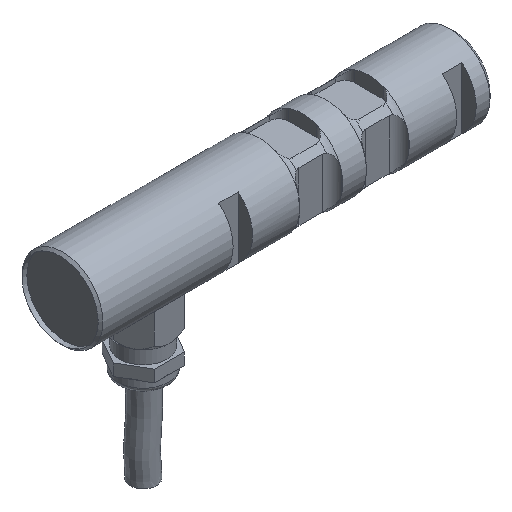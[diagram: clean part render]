
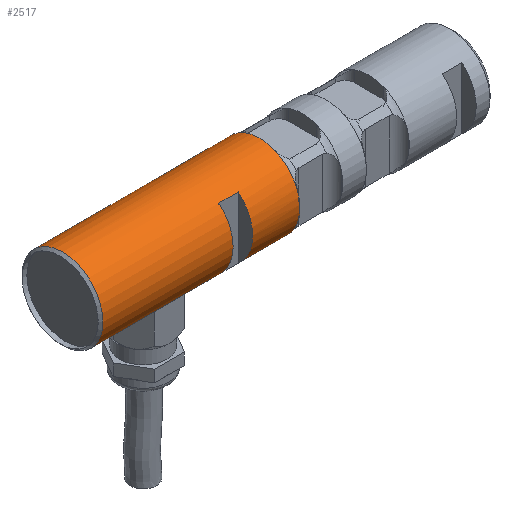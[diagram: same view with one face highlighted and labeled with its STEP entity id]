
A CAD part, isometric view. The second image highlights one B-rep face of the part: STEP entity #2517.
In plain terms, the highlighted cylindrical face has radius 8.525 mm (diameter 17.05 mm), a full revolution.
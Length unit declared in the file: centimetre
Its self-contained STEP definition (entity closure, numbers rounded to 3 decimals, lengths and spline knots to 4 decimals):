
#712=CYLINDRICAL_SURFACE('',#2659,0.8525);
#752=VECTOR('',#2832,1.);
#754=VECTOR('',#2834,1.);
#761=VECTOR('',#2874,1.);
#762=VECTOR('',#2877,1.);
#763=VECTOR('',#2880,1.);
#764=VECTOR('',#2883,1.);
#882=LINE('',#3252,#752);
#884=LINE('',#3256,#754);
#891=LINE('',#3310,#761);
#892=LINE('',#3315,#762);
#893=LINE('',#3318,#763);
#894=LINE('',#3323,#764);
#1011=VERTEX_POINT('',#3248);
#1012=VERTEX_POINT('',#3249);
#1013=VERTEX_POINT('',#3253);
#1014=VERTEX_POINT('',#3255);
#1033=VERTEX_POINT('',#3298);
#1035=VERTEX_POINT('',#3302);
#1036=VERTEX_POINT('',#3303);
#1037=VERTEX_POINT('',#3304);
#1038=VERTEX_POINT('',#3305);
#1039=VERTEX_POINT('',#3306);
#1040=VERTEX_POINT('',#3307);
#1041=VERTEX_POINT('',#3308);
#1042=VERTEX_POINT('',#3309);
#1043=VERTEX_POINT('',#3311);
#1044=VERTEX_POINT('',#3312);
#1045=VERTEX_POINT('',#3314);
#1046=VERTEX_POINT('',#3316);
#1047=VERTEX_POINT('',#3319);
#1048=VERTEX_POINT('',#3320);
#1049=VERTEX_POINT('',#3322);
#1050=VERTEX_POINT('',#3324);
#1209=CIRCLE('',#2647,0.8525);
#1210=CIRCLE('',#2650,0.8525);
#1218=CIRCLE('',#2665,0.8525);
#1220=CIRCLE('',#2667,0.8525);
#1221=CIRCLE('',#2668,0.8525);
#1222=CIRCLE('',#2669,0.8525);
#1223=CIRCLE('',#2670,0.8525);
#1224=CIRCLE('',#2671,0.8525);
#1268=EDGE_CURVE('',#1011,#1012,#1209,.T.);
#1270=EDGE_CURVE('',#1013,#1011,#882,.T.);
#1272=EDGE_CURVE('',#1012,#1014,#884,.T.);
#1273=EDGE_CURVE('',#1014,#1013,#1210,.T.);
#1294=EDGE_CURVE('',#1033,#1033,#1218,.T.);
#1296=EDGE_CURVE('',#1035,#1036,#1220,.T.);
#1297=EDGE_CURVE('',#1036,#1037,#1220,.T.);
#1298=EDGE_CURVE('',#1037,#1038,#1220,.T.);
#1299=EDGE_CURVE('',#1038,#1039,#1220,.T.);
#1300=EDGE_CURVE('',#1039,#1040,#1220,.T.);
#1301=EDGE_CURVE('',#1040,#1041,#1220,.T.);
#1302=EDGE_CURVE('',#1041,#1042,#1220,.T.);
#1303=EDGE_CURVE('',#1042,#1035,#1220,.T.);
#1304=EDGE_CURVE('',#1043,#1044,#891,.T.);
#1305=EDGE_CURVE('',#1044,#1045,#1221,.T.);
#1306=EDGE_CURVE('',#1045,#1046,#892,.T.);
#1307=EDGE_CURVE('',#1046,#1043,#1222,.T.);
#1308=EDGE_CURVE('',#1047,#1048,#893,.T.);
#1309=EDGE_CURVE('',#1048,#1049,#1223,.T.);
#1310=EDGE_CURVE('',#1049,#1050,#894,.T.);
#1311=EDGE_CURVE('',#1050,#1047,#1224,.T.);
#1606=ORIENTED_EDGE('',*,*,#1272,.T.);
#1607=ORIENTED_EDGE('',*,*,#1273,.T.);
#1608=ORIENTED_EDGE('',*,*,#1270,.T.);
#1609=ORIENTED_EDGE('',*,*,#1268,.T.);
#1610=ORIENTED_EDGE('',*,*,#1296,.T.);
#1611=ORIENTED_EDGE('',*,*,#1297,.T.);
#1612=ORIENTED_EDGE('',*,*,#1298,.T.);
#1613=ORIENTED_EDGE('',*,*,#1299,.T.);
#1614=ORIENTED_EDGE('',*,*,#1300,.T.);
#1615=ORIENTED_EDGE('',*,*,#1301,.T.);
#1616=ORIENTED_EDGE('',*,*,#1302,.T.);
#1617=ORIENTED_EDGE('',*,*,#1303,.T.);
#1618=ORIENTED_EDGE('',*,*,#1304,.T.);
#1619=ORIENTED_EDGE('',*,*,#1305,.T.);
#1620=ORIENTED_EDGE('',*,*,#1306,.T.);
#1621=ORIENTED_EDGE('',*,*,#1307,.T.);
#1622=ORIENTED_EDGE('',*,*,#1308,.T.);
#1623=ORIENTED_EDGE('',*,*,#1309,.T.);
#1624=ORIENTED_EDGE('',*,*,#1310,.T.);
#1625=ORIENTED_EDGE('',*,*,#1311,.T.);
#1626=ORIENTED_EDGE('',*,*,#1294,.F.);
#2183=EDGE_LOOP('',(#1606,#1607,#1608,#1609));
#2184=EDGE_LOOP('',(#1610,#1611,#1612,#1613,#1614,#1615,#1616,#1617));
#2185=EDGE_LOOP('',(#1618,#1619,#1620,#1621));
#2186=EDGE_LOOP('',(#1622,#1623,#1624,#1625));
#2187=EDGE_LOOP('',(#1626));
#2352=FACE_BOUND('',#2183,.T.);
#2353=FACE_BOUND('',#2184,.T.);
#2354=FACE_BOUND('',#2185,.T.);
#2355=FACE_BOUND('',#2186,.T.);
#2356=FACE_BOUND('',#2187,.T.);
#2517=ADVANCED_FACE('',(#2352,#2353,#2354,#2355,#2356),#712,.T.);
#2647=AXIS2_PLACEMENT_3D('',#3247,#2828,#2829);
#2650=AXIS2_PLACEMENT_3D('',#3258,#2836,#2837);
#2659=AXIS2_PLACEMENT_3D('',#3277,#2855,#2856);
#2665=AXIS2_PLACEMENT_3D('',#3297,#2868,#2869);
#2667=AXIS2_PLACEMENT_3D('',#3301,#2872,#2873);
#2668=AXIS2_PLACEMENT_3D('',#3313,#2875,#2876);
#2669=AXIS2_PLACEMENT_3D('',#3317,#2878,#2879);
#2670=AXIS2_PLACEMENT_3D('',#3321,#2881,#2882);
#2671=AXIS2_PLACEMENT_3D('',#3325,#2884,#2885);
#2828=DIRECTION('',(-1.,0.,0.));
#2829=DIRECTION('',(0.,0.,-0.853));
#2832=DIRECTION('',(-1.,0.,0.));
#2834=DIRECTION('',(1.,0.,0.));
#2836=DIRECTION('',(1.,0.,0.));
#2837=DIRECTION('',(0.,0.,-0.853));
#2855=DIRECTION('',(1.,0.,0.));
#2856=DIRECTION('',(0.,0.,-0.853));
#2868=DIRECTION('',(-1.,0.,0.));
#2869=DIRECTION('',(0.,0.,0.853));
#2872=DIRECTION('',(-1.,0.,0.));
#2873=DIRECTION('',(0.,0.,-0.853));
#2874=DIRECTION('',(1.,0.,0.));
#2875=DIRECTION('',(1.,0.,0.));
#2876=DIRECTION('',(0.,0.,-0.853));
#2877=DIRECTION('',(-1.,0.,0.));
#2878=DIRECTION('',(-1.,0.,0.));
#2879=DIRECTION('',(0.,0.,-0.853));
#2880=DIRECTION('',(1.,0.,0.));
#2881=DIRECTION('',(1.,0.,0.));
#2882=DIRECTION('',(0.,0.,-0.853));
#2883=DIRECTION('',(-1.,0.,0.));
#2884=DIRECTION('',(-1.,0.,0.));
#2885=DIRECTION('',(0.,0.,-0.853));
#3247=CARTESIAN_POINT('',(-0.41,0.,0.));
#3248=CARTESIAN_POINT('',(-0.41,-0.5525,-0.6492));
#3249=CARTESIAN_POINT('',(-0.41,-0.5525,0.6492));
#3252=CARTESIAN_POINT('',(-0.205,-0.5525,-0.6492));
#3253=CARTESIAN_POINT('',(0.,-0.5525,-0.6492));
#3255=CARTESIAN_POINT('',(0.,-0.5525,0.6492));
#3256=CARTESIAN_POINT('',(-0.205,-0.5525,0.6492));
#3258=CARTESIAN_POINT('',(0.,0.,0.));
#3277=CARTESIAN_POINT('',(-3.2,0.,0.));
#3297=CARTESIAN_POINT('',(-3.15,0.,0.));
#3298=CARTESIAN_POINT('',(-3.15,0.,-0.8525));
#3301=CARTESIAN_POINT('',(1.,0.,0.));
#3302=CARTESIAN_POINT('',(1.,0.83,0.1946));
#3303=CARTESIAN_POINT('',(1.,0.83,-0.1946));
#3304=CARTESIAN_POINT('',(1.,0.3,-0.798));
#3305=CARTESIAN_POINT('',(1.,-0.3,-0.798));
#3306=CARTESIAN_POINT('',(1.,-0.83,-0.1946));
#3307=CARTESIAN_POINT('',(1.,-0.83,0.1946));
#3308=CARTESIAN_POINT('',(1.,-0.3,0.798));
#3309=CARTESIAN_POINT('',(1.,0.3,0.798));
#3310=CARTESIAN_POINT('',(-1.45,-0.6492,-0.5525));
#3311=CARTESIAN_POINT('',(-2.2,-0.6492,-0.5525));
#3312=CARTESIAN_POINT('',(-0.7,-0.6492,-0.5525));
#3313=CARTESIAN_POINT('',(-0.7,0.,0.));
#3314=CARTESIAN_POINT('',(-0.7,0.6492,-0.5525));
#3315=CARTESIAN_POINT('',(-1.45,0.6492,-0.5525));
#3316=CARTESIAN_POINT('',(-2.2,0.6492,-0.5525));
#3317=CARTESIAN_POINT('',(-2.2,0.,0.));
#3318=CARTESIAN_POINT('',(-0.205,0.5525,-0.6492));
#3319=CARTESIAN_POINT('',(-0.41,0.5525,-0.6492));
#3320=CARTESIAN_POINT('',(0.,0.5525,-0.6492));
#3321=CARTESIAN_POINT('',(0.,0.,0.));
#3322=CARTESIAN_POINT('',(0.,0.5525,0.6492));
#3323=CARTESIAN_POINT('',(-0.205,0.5525,0.6492));
#3324=CARTESIAN_POINT('',(-0.41,0.5525,0.6492));
#3325=CARTESIAN_POINT('',(-0.41,0.,0.));
